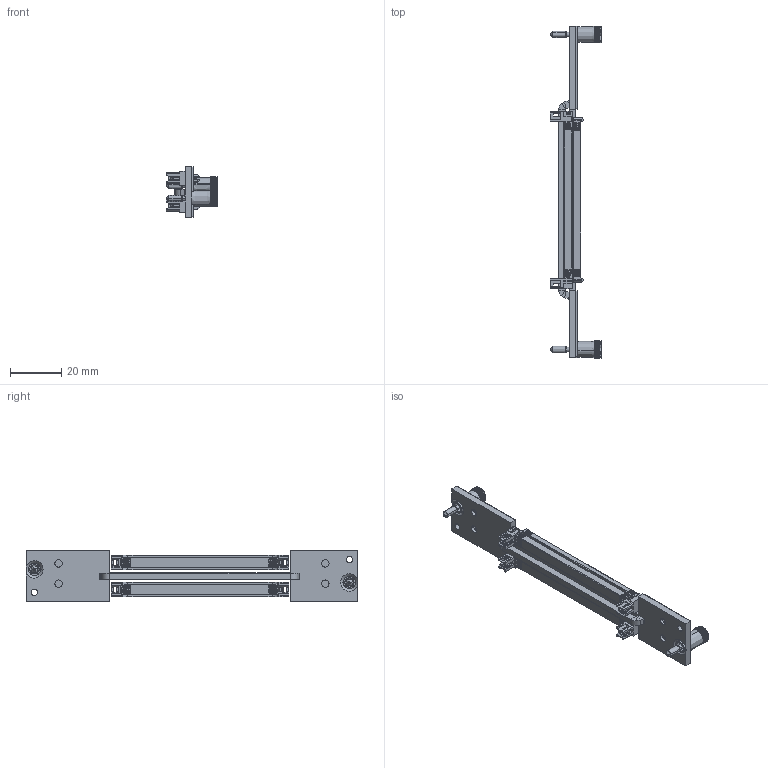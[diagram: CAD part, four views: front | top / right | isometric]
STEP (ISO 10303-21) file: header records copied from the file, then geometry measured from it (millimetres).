
FILE_DESCRIPTION((''),'2;1');
FILE_NAME('CU_PXI-2531','2010-05-27T',('jjorden'),(''),'PRO/ENGINEER BY PARAMETRIC TECHNOLOGY CORPORATION, 2006080','PRO/ENGINEER BY PARAMETRIC TECHNOLOGY CORPORATION, 2006080','');
FILE_SCHEMA(('CONFIG_CONTROL_DESIGN'));
Products named in the file (1): CU_PXI-2531
Bounding box: 20 x 129.05 x 20.02 mm (x, y, z)
Volume: 8148.1 mm3; surface area: 11128.4 mm2
Topology: 3 solids, 5 shells, 3027 faces, 8790 edges, 5723 vertices
Faces by surface type: plane 2435, cylinder 420, bspline 92, extrusion 52, torus 16, cone 12
Entity records: 107234 total; most frequent: CARTESIAN_POINT 30394, ORIENTED_EDGE 17564, DIRECTION 13565, EDGE_CURVE 8782, VECTOR 6653, LINE 6601, VERTEX_POINT 5723, AXIS2_PLACEMENT_3D 3456
